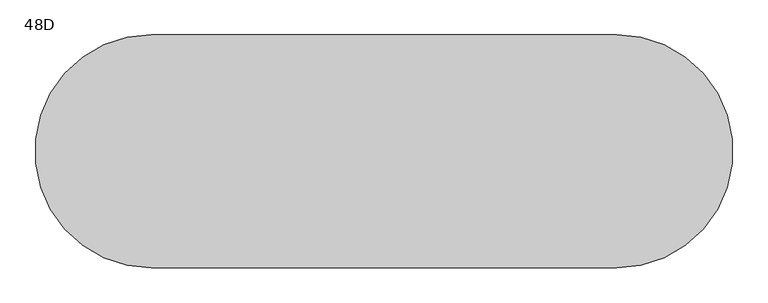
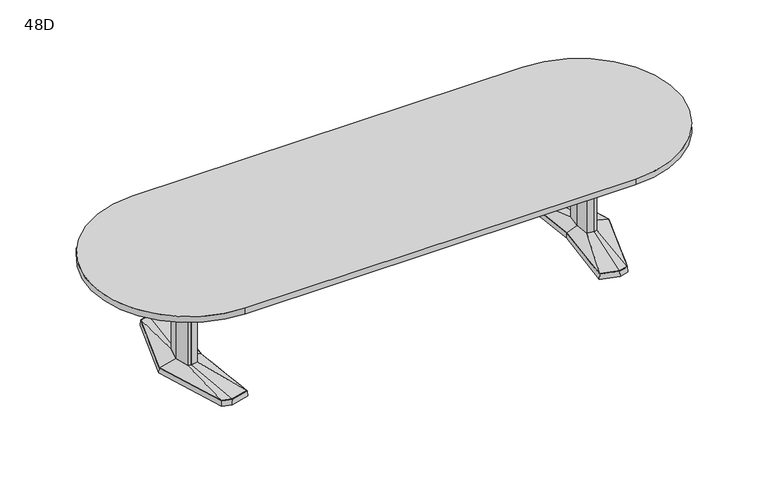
"""IFC4 building model written with IfcOpenShell, lengths in millimetres: furniture geometry, Coalesse_AM_Table_Conference_ETable2_Racetrack_12ft_AluminiumBase : 48D."""

from ifc_helpers import new_model, si_unit, point, frame, frame_2d, origin, place, context, project, spatial, polyline, circle_curve, trimmed, segment, composite_curve, outline, extrude, faceted_brep, source, transform, mapped, element, save
from ifc_brep_helpers import plane_surface, spline_surface, advanced_brep


def furniture_48d_5808e242(model_context):
    return source(origin(), model_context, "Body", "SolidModel", [
        faceted_brep([(1210.6306835, 455.5848221, 38.1), (1101.0531277, 426.2263816, 38.1), (1142.2163717, 0.0, 38.1), (1101.0531277, -426.2263816, 38.1), (1210.6306835, -455.5848221, 38.1), (1266.7570396, -440.5478297, 38.1), (1404.0684269, 0.0, 38.1), (1266.7570396, 440.5478297, 38.1), (1210.6306754, 457.2283104, 3.175), (1268.0124472, 441.8549756, 3.175), (1405.73125, 0.0, 3.175), (1268.0124472, -441.8549756, 3.175), (1210.6306754, -457.2283104, 3.175), (1099.34375, -427.4118891, 3.175), (1140.6214856, 0.0, 3.175), (1099.34375, 427.4118891, 3.175), (1214.220115, 428.3273875, 3.175), (1109.1718228, 402.1057253, 3.175), (1117.290518, 377.985069, 3.175), (1217.8095466, 401.0699529, 3.175), (1268.3691725, 387.524361, 3.175), (1267.5631061, 414.0360954, 3.175), (1214.220115, -428.3273875, 3.175), (1267.5631061, -414.0360954, 3.175), (1268.3691725, -387.524361, 3.175), (1217.8095466, -401.0699529, 3.175), (1117.290518, -377.985069, 3.175), (1109.1718228, -402.1057253, 3.175), (1340.8153621, 0.0, 3.175), (1308.5459611, 120.4193755, 3.175), (1259.8987222, 133.471665, 3.175), (1180.0180526, 119.4176561, 3.175), (1168.8868466, 0.0, 3.175), (1180.0180526, -119.4176561, 3.175), (1259.8987222, -133.471665, 3.175), (1308.5459611, -120.4193755, 3.175), (1214.220115, 428.3273875, 0.0), (1267.5631061, 414.0360954, 0.0), (1268.3691725, 387.524361, 0.0), (1217.8095466, 401.0699529, 0.0), (1117.290518, 377.985069, 0.0), (1109.1718228, 402.1057253, 0.0), (1214.220115, -428.3273875, 0.0), (1109.1718228, -402.1057253, 0.0), (1117.290518, -377.985069, 0.0), (1217.8095466, -401.0699529, 0.0), (1268.3691725, -387.524361, 0.0), (1267.5631061, -414.0360954, 0.0), (1340.8153621, 0.0, 0.0), (1308.5459611, -120.4193755, 0.0), (1259.8987222, -133.471665, 0.0), (1180.0180526, -119.4176561, 0.0), (1168.8868466, 0.0, 0.0), (1180.0180526, 119.4176561, 0.0), (1259.8987222, 133.471665, 0.0), (1308.5459611, 120.4193755, 0.0)], [[[0, 1, 2, 3, 4, 5, 6, 7]], [[8, 9, 10, 11, 12, 13, 14, 15], [16, 17, 18, 19, 20, 21], [22, 23, 24, 25, 26, 27], [28, 29, 30, 31, 32, 33, 34, 35]], [[7, 9, 8, 0]], [[6, 10, 9, 7]], [[5, 11, 10, 6]], [[4, 12, 11, 5]], [[3, 13, 12, 4]], [[2, 14, 13, 3]], [[1, 15, 14, 2]], [[0, 8, 15, 1]], [[36, 37, 38, 39, 40, 41]], [[42, 43, 44, 45, 46, 47]], [[48, 49, 50, 51, 52, 53, 54, 55]], [[36, 16, 21, 37]], [[37, 21, 20, 38]], [[38, 20, 19, 39]], [[39, 19, 18, 40]], [[40, 18, 17, 41]], [[41, 17, 16, 36]], [[42, 22, 27, 43]], [[43, 27, 26, 44]], [[44, 26, 25, 45]], [[45, 25, 24, 46]], [[46, 24, 23, 47]], [[47, 23, 22, 42]], [[48, 28, 35, 49]], [[49, 35, 34, 50]], [[50, 34, 33, 51]], [[51, 33, 32, 52]], [[52, 32, 31, 53]], [[53, 31, 30, 54]], [[54, 30, 29, 55]], [[55, 29, 28, 48]]]),
        faceted_brep([(1301.3710836, 0.0, 698.5), (1277.4358546, 89.3188359, 698.5), (1260.5824984, 93.8406728, 698.5), (1258.1826511, 94.4845635, 698.5), (1215.255146, 86.9320037, 698.5), (1207.1520056, 0.0, 698.5), (1215.255146, -86.9320037, 698.5), (1258.1826511, -94.4845635, 698.5), (1260.5824984, -93.8406728, 698.5), (1277.4358546, -89.3188359, 698.5), (1301.3710836, 0.0, 63.5), (1277.4358546, -89.3188359, 63.5), (1260.5824984, -93.8406728, 63.5), (1258.1826511, -94.4845635, 63.5), (1215.255146, -86.9320037, 63.5), (1207.1520056, 0.0, 63.5), (1215.255146, 86.9320037, 63.5), (1258.1826511, 94.4845635, 63.5), (1260.5824984, 93.8406728, 63.5), (1277.4358546, 89.3188359, 63.5)], [[[0, 1, 2, 3, 4, 5, 6, 7, 8, 9]], [[10, 11, 12, 13, 14, 15, 16, 17, 18, 19]], [[9, 11, 10, 0]], [[8, 12, 11, 9]], [[7, 13, 12, 8]], [[6, 14, 13, 7]], [[5, 15, 14, 6]], [[4, 16, 15, 5]], [[3, 17, 16, 4]], [[2, 18, 17, 3]], [[1, 19, 18, 2]], [[0, 10, 19, 1]]]),
        advanced_brep(
        [(1258.1826511, 94.4845635, 63.5), (1215.255146, 86.9320037, 63.5), (1207.1520056, 0.0, 63.5), (1215.255146, -86.9320037, 63.5), (1258.1826511, -94.4845635, 63.5), (1277.4358546, -89.3188359, 63.5), (1301.3710836, 0.0, 63.5), (1277.4358546, 89.3188359, 63.5), (1210.6306835, 455.5848221, 38.1), (1266.7570396, 440.5478297, 38.1), (1404.0684269, 0.0, 38.1), (1266.7570396, -440.5478297, 38.1), (1210.6306835, -455.5848221, 38.1), (1101.0531277, -426.2263816, 38.1), (1142.2163717, 0.0, 38.1), (1101.0531277, 426.2263816, 38.1)],
        [
            (0, 1),
            (1, 2),
            (2, 3),
            (3, 4),
            (4, 5),
            (5, 6),
            (6, 7),
            (7, 0),
            (8, 9),
            (9, 10),
            (10, 11),
            (11, 12),
            (12, 13),
            (13, 14),
            (14, 15),
            (15, 8),
            (8, 0),
            (7, 9),
            (6, 10),
            (5, 11),
            (4, 12),
            (3, 13),
            (2, 14),
            (1, 15),
        ],
        [
            plane_surface(frame((1251.2837991, 0.0, 63.5), z_axis=(0.0, 0.0, 1.0), x_axis=(-0.25884244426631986, -0.9659195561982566, 0.0))),
            plane_surface(frame((1212.8958125, 0.0, 38.1), z_axis=(0.0, 0.0, -1.0), x_axis=(-0.25884244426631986, -0.9659195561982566, 0.0))),
            spline_surface(1, 1, [[(1210.6306835, 455.5848221, 38.1), (1266.7570396, 440.5478297, 38.1)], [(1258.1826511, 94.4845635, 63.5), (1277.4358546, 89.3188359, 63.5)]], [2, 2], [2, 2], [0.0, 1.0], [0.0, 1.0]),
            spline_surface(1, 1, [[(1266.7570396, 440.5478297, 38.1), (1404.0684269, 0.0, 38.1)], [(1277.4358546, 89.3188359, 63.5), (1301.3710836, 0.0, 63.5)]], [2, 2], [2, 2], [0.0, 1.0], [0.0, 1.0]),
            spline_surface(1, 1, [[(1404.0684269, 0.0, 38.1), (1266.7570396, -440.5478297, 38.1)], [(1301.3710836, 0.0, 63.5), (1277.4358546, -89.3188359, 63.5)]], [2, 2], [2, 2], [0.0, 1.0], [0.0, 1.0]),
            spline_surface(1, 1, [[(1266.7570396, -440.5478297, 38.1), (1210.6306835, -455.5848221, 38.1)], [(1277.4358546, -89.3188359, 63.5), (1258.1826511, -94.4845635, 63.5)]], [2, 2], [2, 2], [0.0, 1.0], [0.0, 1.0]),
            spline_surface(1, 1, [[(1210.6306835, -455.5848221, 38.1), (1101.0531277, -426.2263816, 38.1)], [(1258.1826511, -94.4845635, 63.5), (1215.255146, -86.9320037, 63.5)]], [2, 2], [2, 2], [0.0, 1.0], [0.0, 1.0]),
            spline_surface(1, 1, [[(1101.0531277, -426.2263816, 38.1), (1142.2163717, 0.0, 38.1)], [(1215.255146, -86.9320037, 63.5), (1207.1520056, 0.0, 63.5)]], [2, 2], [2, 2], [0.0, 1.0], [0.0, 1.0]),
            spline_surface(1, 1, [[(1142.2163717, 0.0, 38.1), (1101.0531277, 426.2263816, 38.1)], [(1207.1520056, 0.0, 63.5), (1215.255146, 86.9320037, 63.5)]], [2, 2], [2, 2], [0.0, 1.0], [0.0, 1.0]),
            spline_surface(1, 1, [[(1101.0531277, 426.2263816, 38.1), (1210.6306835, 455.5848221, 38.1)], [(1215.255146, 86.9320037, 63.5), (1258.1826511, 94.4845635, 63.5)]], [2, 2], [2, 2], [0.0, 1.0], [0.0, 1.0]),
        ],
        [
            (0, [[1, 2, 3, 4, 5, 6, 7, 8]]),
            (1, [[9, 10, 11, 12, 13, 14, 15, 16]]),
            (2, [[17, -8, 18, -9]]),
            (3, [[-18, -7, 19, -10]]),
            (4, [[-19, -6, 20, -11]]),
            (5, [[-20, -5, 21, -12]]),
            (6, [[-21, -4, 22, -13]]),
            (7, [[-22, -3, 23, -14]]),
            (8, [[-23, -2, 24, -15]]),
            (9, [[-24, -1, -17, -16]]),
        ],
    ),
        faceted_brep([(-1210.6306835, 455.5848221, 38.1), (-1266.7570396, 440.5478297, 38.1), (-1404.0684269, 0.0, 38.1), (-1266.7570396, -440.5478297, 38.1), (-1210.6306835, -455.5848221, 38.1), (-1101.0531277, -426.2263816, 38.1), (-1142.2163717, 0.0, 38.1), (-1101.0531277, 426.2263816, 38.1), (-1210.6306754, 457.2283104, 3.175), (-1099.34375, 427.4118891, 3.175), (-1140.6214856, 0.0, 3.175), (-1099.34375, -427.4118891, 3.175), (-1210.6306754, -457.2283104, 3.175), (-1268.0124472, -441.8549756, 3.175), (-1405.73125, 0.0, 3.175), (-1268.0124472, 441.8549756, 3.175), (-1214.220115, 428.3273875, 3.175), (-1267.5631061, 414.0360954, 3.175), (-1268.3691725, 387.524361, 3.175), (-1217.8095466, 401.0699529, 3.175), (-1117.290518, 377.985069, 3.175), (-1109.1718228, 402.1057253, 3.175), (-1214.220115, -428.3273875, 3.175), (-1109.1718228, -402.1057253, 3.175), (-1117.290518, -377.985069, 3.175), (-1217.8095466, -401.0699529, 3.175), (-1268.3691725, -387.524361, 3.175), (-1267.5631061, -414.0360954, 3.175), (-1340.8153621, 0.0, 3.175), (-1308.5459611, -120.4193755, 3.175), (-1259.8987222, -133.471665, 3.175), (-1180.0180526, -119.4176561, 3.175), (-1168.8868466, 0.0, 3.175), (-1180.0180526, 119.4176561, 3.175), (-1259.8987222, 133.471665, 3.175), (-1308.5459611, 120.4193755, 3.175), (-1214.220115, 428.3273875, 0.0), (-1109.1718228, 402.1057253, 0.0), (-1117.290518, 377.985069, 0.0), (-1217.8095466, 401.0699529, 0.0), (-1268.3691725, 387.524361, 0.0), (-1267.5631061, 414.0360954, 0.0), (-1214.220115, -428.3273875, 0.0), (-1267.5631061, -414.0360954, 0.0), (-1268.3691725, -387.524361, 0.0), (-1217.8095466, -401.0699529, 0.0), (-1117.290518, -377.985069, 0.0), (-1109.1718228, -402.1057253, 0.0), (-1340.8153621, 0.0, 0.0), (-1308.5459611, 120.4193755, 0.0), (-1259.8987222, 133.471665, 0.0), (-1180.0180526, 119.4176561, 0.0), (-1168.8868466, 0.0, 0.0), (-1180.0180526, -119.4176561, 0.0), (-1259.8987222, -133.471665, 0.0), (-1308.5459611, -120.4193755, 0.0)], [[[0, 1, 2, 3, 4, 5, 6, 7]], [[8, 9, 10, 11, 12, 13, 14, 15], [16, 17, 18, 19, 20, 21], [22, 23, 24, 25, 26, 27], [28, 29, 30, 31, 32, 33, 34, 35]], [[1, 0, 8, 15]], [[2, 1, 15, 14]], [[3, 2, 14, 13]], [[4, 3, 13, 12]], [[5, 4, 12, 11]], [[6, 5, 11, 10]], [[7, 6, 10, 9]], [[0, 7, 9, 8]], [[36, 37, 38, 39, 40, 41]], [[42, 43, 44, 45, 46, 47]], [[48, 49, 50, 51, 52, 53, 54, 55]], [[36, 41, 17, 16]], [[41, 40, 18, 17]], [[40, 39, 19, 18]], [[39, 38, 20, 19]], [[38, 37, 21, 20]], [[37, 36, 16, 21]], [[42, 47, 23, 22]], [[47, 46, 24, 23]], [[46, 45, 25, 24]], [[45, 44, 26, 25]], [[44, 43, 27, 26]], [[43, 42, 22, 27]], [[48, 55, 29, 28]], [[55, 54, 30, 29]], [[54, 53, 31, 30]], [[53, 52, 32, 31]], [[52, 51, 33, 32]], [[51, 50, 34, 33]], [[50, 49, 35, 34]], [[49, 48, 28, 35]]]),
        faceted_brep([(-1301.3710836, 0.0, 698.5), (-1277.4358546, -89.3188359, 698.5), (-1260.5824984, -93.8406728, 698.5), (-1258.1826511, -94.4845635, 698.5), (-1215.255146, -86.9320037, 698.5), (-1207.1520056, 0.0, 698.5), (-1215.255146, 86.9320037, 698.5), (-1258.1826511, 94.4845635, 698.5), (-1260.5824984, 93.8406728, 698.5), (-1277.4358546, 89.3188359, 698.5), (-1301.3710836, 0.0, 63.5), (-1277.4358546, 89.3188359, 63.5), (-1260.5824984, 93.8406728, 63.5), (-1258.1826511, 94.4845635, 63.5), (-1215.255146, 86.9320037, 63.5), (-1207.1520056, 0.0, 63.5), (-1215.255146, -86.9320037, 63.5), (-1258.1826511, -94.4845635, 63.5), (-1260.5824984, -93.8406728, 63.5), (-1277.4358546, -89.3188359, 63.5)], [[[0, 1, 2, 3, 4, 5, 6, 7, 8, 9]], [[10, 11, 12, 13, 14, 15, 16, 17, 18, 19]], [[1, 0, 10, 19]], [[2, 1, 19, 18]], [[3, 2, 18, 17]], [[4, 3, 17, 16]], [[5, 4, 16, 15]], [[6, 5, 15, 14]], [[7, 6, 14, 13]], [[8, 7, 13, 12]], [[9, 8, 12, 11]], [[0, 9, 11, 10]]]),
        advanced_brep(
        [(-1258.1826511, 94.4845635, 63.5), (-1277.4358546, 89.3188359, 63.5), (-1301.3710836, 0.0, 63.5), (-1277.4358546, -89.3188359, 63.5), (-1258.1826511, -94.4845635, 63.5), (-1215.255146, -86.9320037, 63.5), (-1207.1520056, 0.0, 63.5), (-1215.255146, 86.9320037, 63.5), (-1210.6306835, 455.5848221, 38.1), (-1101.0531277, 426.2263816, 38.1), (-1142.2163717, 0.0, 38.1), (-1101.0531277, -426.2263816, 38.1), (-1210.6306835, -455.5848221, 38.1), (-1266.7570396, -440.5478297, 38.1), (-1404.0684269, 0.0, 38.1), (-1266.7570396, 440.5478297, 38.1)],
        [
            (0, 1),
            (1, 2),
            (2, 3),
            (3, 4),
            (4, 5),
            (5, 6),
            (6, 7),
            (7, 0),
            (8, 9),
            (9, 10),
            (10, 11),
            (11, 12),
            (12, 13),
            (13, 14),
            (14, 15),
            (15, 8),
            (15, 1),
            (0, 8),
            (14, 2),
            (13, 3),
            (12, 4),
            (11, 5),
            (10, 6),
            (9, 7),
        ],
        [
            plane_surface(frame((-1251.2837991, 0.0, 63.5), z_axis=(0.0, 0.0, 1.0), x_axis=(0.25884244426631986, -0.9659195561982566, 0.0))),
            plane_surface(frame((-1212.8958125, 0.0, 38.1), z_axis=(0.0, 0.0, -1.0), x_axis=(0.25884244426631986, -0.9659195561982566, 0.0))),
            spline_surface(1, 1, [[(-1210.6306835, 455.5848221, 38.1), (-1258.1826511, 94.4845635, 63.5)], [(-1266.7570396, 440.5478297, 38.1), (-1277.4358546, 89.3188359, 63.5)]], [2, 2], [2, 2], [0.0, 1.0], [0.0, 1.0]),
            spline_surface(1, 1, [[(-1266.7570396, 440.5478297, 38.1), (-1277.4358546, 89.3188359, 63.5)], [(-1404.0684269, 0.0, 38.1), (-1301.3710836, 0.0, 63.5)]], [2, 2], [2, 2], [0.0, 1.0], [0.0, 1.0]),
            spline_surface(1, 1, [[(-1404.0684269, 0.0, 38.1), (-1301.3710836, 0.0, 63.5)], [(-1266.7570396, -440.5478297, 38.1), (-1277.4358546, -89.3188359, 63.5)]], [2, 2], [2, 2], [0.0, 1.0], [0.0, 1.0]),
            spline_surface(1, 1, [[(-1266.7570396, -440.5478297, 38.1), (-1277.4358546, -89.3188359, 63.5)], [(-1210.6306835, -455.5848221, 38.1), (-1258.1826511, -94.4845635, 63.5)]], [2, 2], [2, 2], [0.0, 1.0], [0.0, 1.0]),
            spline_surface(1, 1, [[(-1210.6306835, -455.5848221, 38.1), (-1258.1826511, -94.4845635, 63.5)], [(-1101.0531277, -426.2263816, 38.1), (-1215.255146, -86.9320037, 63.5)]], [2, 2], [2, 2], [0.0, 1.0], [0.0, 1.0]),
            spline_surface(1, 1, [[(-1101.0531277, -426.2263816, 38.1), (-1215.255146, -86.9320037, 63.5)], [(-1142.2163717, 0.0, 38.1), (-1207.1520056, 0.0, 63.5)]], [2, 2], [2, 2], [0.0, 1.0], [0.0, 1.0]),
            spline_surface(1, 1, [[(-1142.2163717, 0.0, 38.1), (-1207.1520056, 0.0, 63.5)], [(-1101.0531277, 426.2263816, 38.1), (-1215.255146, 86.9320037, 63.5)]], [2, 2], [2, 2], [0.0, 1.0], [0.0, 1.0]),
            spline_surface(1, 1, [[(-1101.0531277, 426.2263816, 38.1), (-1215.255146, 86.9320037, 63.5)], [(-1210.6306835, 455.5848221, 38.1), (-1258.1826511, 94.4845635, 63.5)]], [2, 2], [2, 2], [0.0, 1.0], [0.0, 1.0]),
        ],
        [
            (0, [[1, 2, 3, 4, 5, 6, 7, 8]]),
            (1, [[9, 10, 11, 12, 13, 14, 15, 16]]),
            (2, [[-16, 17, -1, 18]]),
            (3, [[-15, 19, -2, -17]]),
            (4, [[-14, 20, -3, -19]]),
            (5, [[-13, 21, -4, -20]]),
            (6, [[-12, 22, -5, -21]]),
            (7, [[-11, 23, -6, -22]]),
            (8, [[-10, 24, -7, -23]]),
            (9, [[-9, -18, -8, -24]]),
        ],
    ),
        extrude(outline(polyline([(96.8375, 698.5), (103.1875, 698.5), (103.1875, 476.25), (-103.1875, 476.25), (-103.1875, 698.5), (-96.8375, 698.5), (-96.8375, 482.6), (96.8375, 482.6), (96.8375, 698.5)])), frame((-1207.29375, 0.0, 0.0), z_axis=(1.0, 0.0, 0.0), x_axis=(0.0, 1.0, 0.0)), (0.0, 0.0, 1.0), 2414.5875),
        extrude(outline(composite_curve([segment(trimmed(circle_curve(frame_2d((-1219.2, 0.0)), 609.6), [point((-1219.2, -609.6))], [point((-1219.2, 609.6))], False, "CARTESIAN"), True, "CONTINUOUS"), segment(polyline([(-1219.2, 609.6), (1219.2, 609.6)]), True, "CONTINUOUS"), segment(trimmed(circle_curve(frame_2d((1219.2, 0.0)), 609.6), [point((1219.2, 609.6))], [point((1219.2, -609.6))], False, "CARTESIAN"), True, "CONTINUOUS"), segment(polyline([(1219.2, -609.6), (-1219.2, -609.6)]), True, "CONTINUOUS")], self_intersect=False)), frame((0.0, 0.0, 698.5), z_axis=(0.0, 0.0, 1.0), x_axis=(1.0, 0.0, 0.0)), (0.0, 0.0, 1.0), 38.1),
    ])


if __name__ == "__main__":
    model = new_model("IFC4")
    model_context = context("Model", 3, world=origin())
    ifc_project = project(units=[si_unit("LENGTHUNIT", "METRE", prefix="MILLI")], contexts=[model_context])
    site = spatial("IfcSite", under=ifc_project)
    building = spatial("IfcBuilding", under=site)
    placement = place(None, origin())
    furniture_48d_shape = furniture_48d_5808e242(model_context)
    element("IfcFurniture", 1, ObjectType="Coalesse_AM_Table_Conference_ETable2_Racetrack_12ft_AluminiumBase : 48D", at=placement, inside=building, context=model_context, shape_type="MappedRepresentation", body=[
        mapped(furniture_48d_shape, transform((0.0, 0.0, 0.0), x_axis=(1.0, 0.0, 0.0), y_axis=(0.0, 1.0, 0.0), z_axis=(0.0, 0.0, 1.0))),
    ])
    save(model, "model.ifc")
